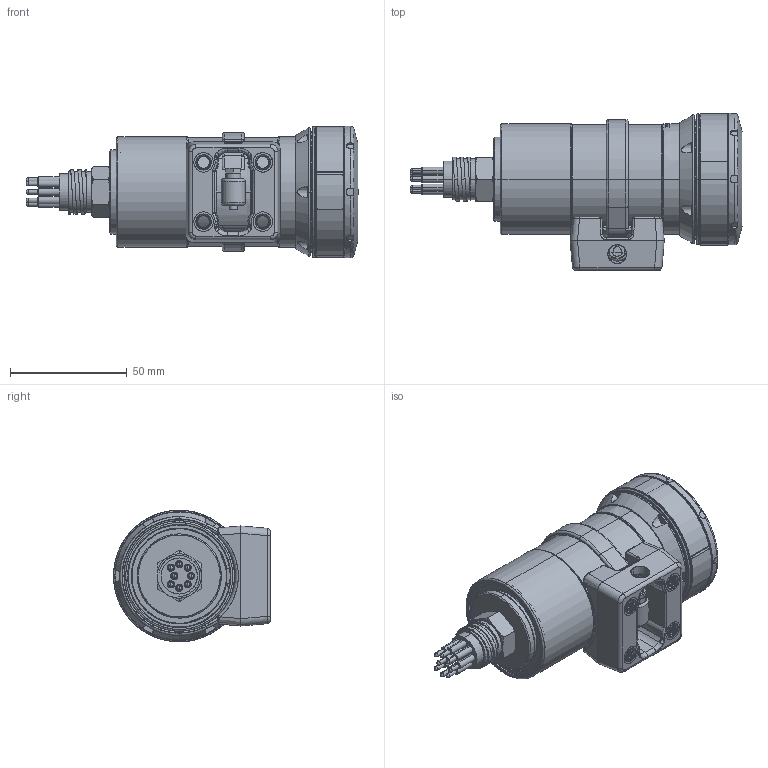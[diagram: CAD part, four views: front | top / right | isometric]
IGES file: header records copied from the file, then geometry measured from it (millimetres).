
Start section: SolidWorks IGES file using analytic representation for surfaces
Global section: file name: S:\3D_Product_Models\Cameras\IPMSC-F-SUBMC8E-741-008_20220317a.IGS; native system: SolidWorks 2021; preprocessor: SolidWorks 2021; author: Jason.Buss; date: 220317.104049; units: millimetre
Bounding box: 142.29 x 67.32 x 56.39 mm (x, y, z)
Surface area: 43731.7 mm2 (no closed solid volume)
Topology: 0 solids, 0 shells, 721 faces, 11646 edges, 11609 vertices
Faces by surface type: revolution 401, bspline 320
